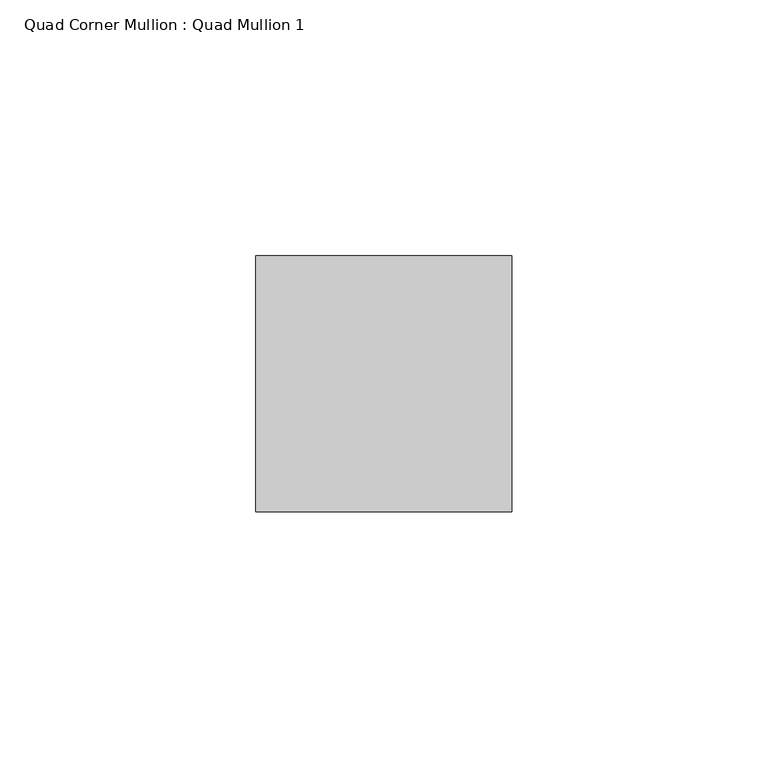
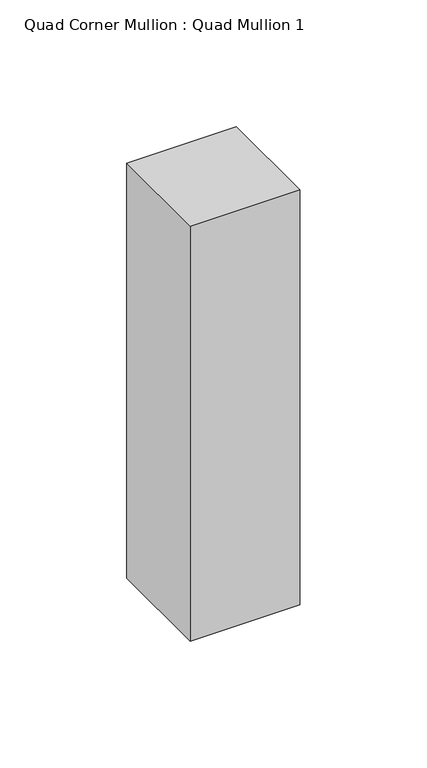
"""IFC4 building model written with IfcOpenShell, lengths in millimetres: member geometry, Quad Corner Mullion : Quad Mullion 1."""

from ifc_helpers import new_model, si_unit, frame, origin, place, context, project, spatial, polyline, outline, extrude, source, transform, mapped, element, save


def quad_corner_mullion_quad_mullion_1_d1edd11b(model_context):
    return source(origin(), model_context, "Body", "SweptSolid", [
        extrude(outline(polyline([(25.0, -25.0), (-25.0, -25.0), (-25.0, 25.0), (25.0, 25.0), (25.0, -25.0)])), frame((0.0, 0.0, -200.0), z_axis=(0.0, 0.0, 1.0), x_axis=(1.0, 0.0, 0.0)), (0.0, 0.0, 1.0), 200.0),
    ])


if __name__ == "__main__":
    model = new_model("IFC4")
    model_context = context("Model", 3, world=origin())
    ifc_project = project(units=[si_unit("LENGTHUNIT", "METRE", prefix="MILLI")], contexts=[model_context])
    site = spatial("IfcSite", under=ifc_project)
    building = spatial("IfcBuilding", under=site)
    placement = place(None, origin())
    quad_corner_mullion_quad_mullion_1_shape = quad_corner_mullion_quad_mullion_1_d1edd11b(model_context)
    element("IfcMember", 1, ObjectType="Quad Corner Mullion : Quad Mullion 1", at=placement, inside=building, context=model_context, shape_type="MappedRepresentation", body=[
        mapped(quad_corner_mullion_quad_mullion_1_shape, transform((0.0, 0.0, 0.0), x_axis=(1.0, 0.0, 0.0), y_axis=(0.0, 1.0, 0.0), z_axis=(0.0, 0.0, 1.0))),
    ])
    save(model, "model.ifc")
